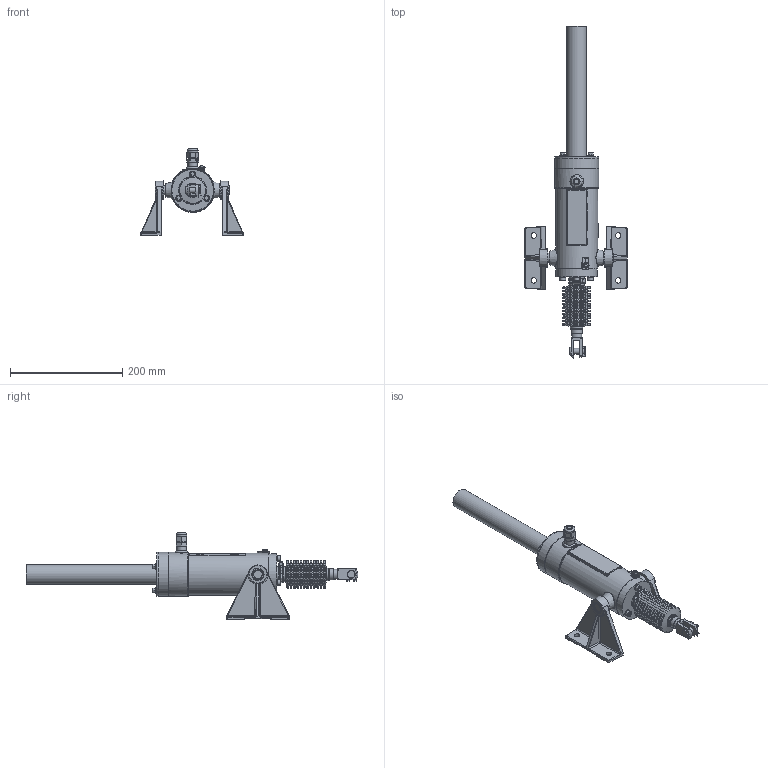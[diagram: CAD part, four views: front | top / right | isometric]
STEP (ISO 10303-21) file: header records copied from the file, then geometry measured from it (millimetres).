
FILE_DESCRIPTION( ( '153-599-4' ), '1' );
FILE_NAME( 'C:/daten/bearbeitung katalogbilder/RBs rendern/austausch pomplun/mit identnr/T5A1-0200-160-268-3.stp', 'Unknown', ( 'Christoph Hahmann' ), ( 'RACO-ELEKTRO-MASCHINEN GmbH' ), 'PSStep 17.0.49', 'Solid Edge ST 7', ' ' );
FILE_SCHEMA( ( 'AUTOMOTIVE_DESIGN { 1 0 10303 214 1 1 1 1 }' ) );
Length unit declared in the file: millimetre
Products named in the file (4): Assem1; T5A1-0200-oa0; Faltenbalg-0200; 03.65-02 kpl
Assembly tree (3 placements, depth 2):
  Assem1
    T5A1-0200-oa0
    Faltenbalg-0200
    03.65-02 kpl
Bounding box: 181.4 x 590.39 x 154.05 mm (x, y, z)
Surface area: 290426.5 mm2 (no closed solid volume)
Topology: 0 solids, 2186 shells, 2187 faces, 10825 edges, 10453 vertices
Faces by surface type: plane 1017, cylinder 567, torus 257, bspline 147, cone 137, sphere 45, extrusion 17
Full cylindrical faces by diameter (mm): 2 x7, 4.02 x1, 4.134 x3, 5 x7, 5.1 x1, 5.3 x2, 5.4 x1, 6 x4, 6.4 x1, 6.7 x3, 8 x4, 8.5 x1, 8.7 x1, 9 x3, 9.2 x1, 9.5 x4, 10 x14, 10.5 x1, 11 x6, 12 x1, 12.4 x1, 13.4 x1, 13.5 x1, 13.86 x2, 14.394 x1, 15.2 x2, 16 x4, 16.509 x1, 17 x1, 17.281 x1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
Entity records: 150887 total; most frequent: CARTESIAN_POINT 53813, DIRECTION 17477, VERTEX_POINT 10360, ORIENTED_EDGE 10342, EDGE_CURVE 10342, AXIS2_PLACEMENT_3D 6524, VECTOR 4429, LINE 4412
